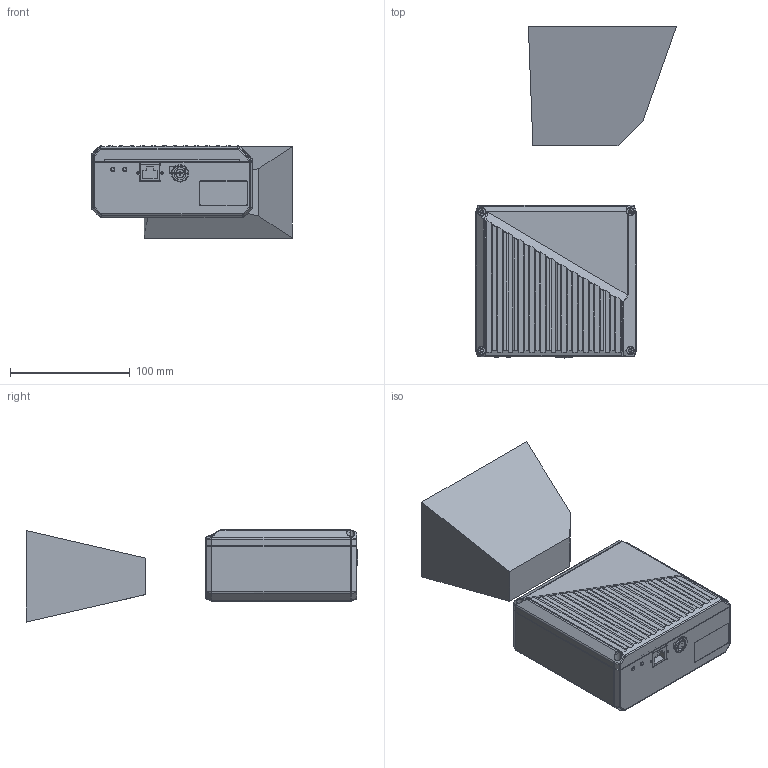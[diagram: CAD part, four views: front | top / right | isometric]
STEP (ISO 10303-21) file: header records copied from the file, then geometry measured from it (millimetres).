
FILE_DESCRIPTION((''),'2;1');
FILE_NAME('DFX1202_ASM','2024-01-05T',('Ҧ'),(''),'PRO/ENGINEER BY PARAMETRIC TECHNOLOGY CORPORATION, 2010280','PRO/ENGINEER BY PARAMETRIC TECHNOLOGY CORPORATION, 2010280','');
FILE_SCHEMA(('CONFIG_CONTROL_DESIGN'));
Products named in the file (41): 1202; 220-0139-00-___3_1; P13-V3-_2_1_1; P13-V3-_2_2_1; P13-V3-_2_ASM_1_ASM; M1-7-5_1_1; 3010-AME; 0-M6SC_ASM_1_ASM_1_ASM; 1202BEIBAN; COMS-BASLER; M1228-MPW3; CHUFAXIAN-BAS; MIRCOUSB3_0__X90__1121_2; MIRCOUSB3_0__X90__1121-16016; MIRCOUSB3_0__X90__1121_3; MIRCOUSB3_0__X90__1121-10186_ASM; ____-USB3_0_MICROB______; MIRCOUSBX90________2305017_ASM; LVGUNGPIAN-29; 1202COMS_ASM; M6S_QUDONGBAN1_2; PCB-807; MANIFOLD_SOLID_BREP_53450; 155-0746-000_1; 142-63448-1GEN_A00_1; JR45; USB3; PMMA; USBAMX90__NEI; USBAMX90__; UABAMX90___ASM; PCB-807_ASM; LENS35-1; 808-KA; 803-43; 808HUAN; 1202A; M2X24-3; 1202-6063; DC24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
Assembly tree (48 placements, depth 5):
  DFX1202_ASM
    1202
    0-M6SC_ASM_1_ASM_1_ASM
      220-0139-00-___3_1
      P13-V3-_2_ASM_1_ASM
        P13-V3-_2_1_1
        P13-V3-_2_2_1
      M1-7-5_1_1  x4
      3010-AME
    1202COMS_ASM
      1202BEIBAN
      COMS-BASLER
      M1228-MPW3
      CHUFAXIAN-BAS
      MIRCOUSBX90________2305017_ASM
        MIRCOUSB3_0__X90__1121-10186_ASM
          MIRCOUSB3_0__X90__1121_2
          MIRCOUSB3_0__X90__1121-16016
          MIRCOUSB3_0__X90__1121_3
        ____-USB3_0_MICROB______
      LVGUNGPIAN-29
    M6S_QUDONGBAN1_2
    PCB-807_ASM
      PCB-807
      MANIFOLD_SOLID_BREP_53450
      155-0746-000_1  x2
      142-63448-1GEN_A00_1
      JR45
      USB3  x2
      PMMA  x2
      UABAMX90___ASM
        USBAMX90__NEI
        USBAMX90__
    LENS35-1  x2
    808-KA
    803-43
    808HUAN
    1202A
    M2X24-3  x2
    1202-6063
    DC24
Bounding box: 168 x 277.5 x 77.04 mm (x, y, z)
Volume: 947000.4 mm3; surface area: 292250.1 mm2
Topology: 42 solids, 43 shells, 5029 faces, 13272 edges, 8646 vertices
Faces by surface type: plane 2958, cylinder 1505, cone 287, bspline 135, torus 118, extrusion 14, sphere 8, revolution 4
Entity records: 159987 total; most frequent: CARTESIAN_POINT 35809, ORIENTED_EDGE 25860, DIRECTION 25683, EDGE_CURVE 12930, AXIS2_PLACEMENT_3D 8571, VECTOR 8537, LINE 8523, VERTEX_POINT 8435
